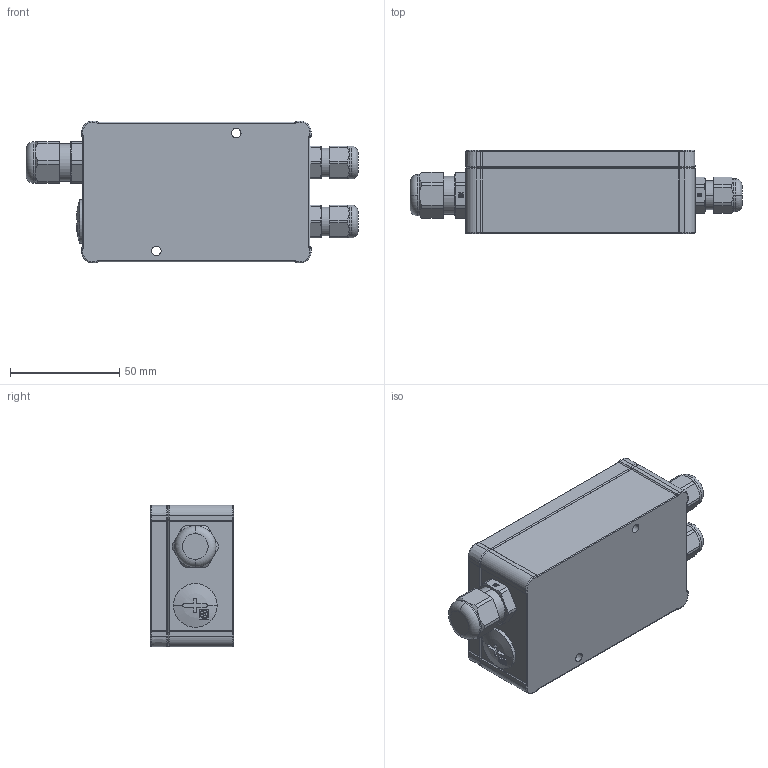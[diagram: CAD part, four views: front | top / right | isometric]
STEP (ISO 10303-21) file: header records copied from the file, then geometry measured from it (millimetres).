
FILE_DESCRIPTION((''),'2;1');
FILE_NAME('0000186042_SW0003','2020-03-02T11:32:07',('11000775'),(''),'CREO PARAMETRIC BY PTC INC, 2019030','CREO PARAMETRIC BY PTC INC, 2019030','');
FILE_SCHEMA(('AUTOMOTIVE_DESIGN { 1 0 10303 214 1 1 1 1 }'));
Length unit declared in the file: millimetre
Products named in the file (1): 0000186042_SW0003
Bounding box: 152 x 38 x 65 mm (x, y, z)
Volume: 263090.9 mm3; surface area: 32020.2 mm2
Topology: 1 solids, 1 shells, 563 faces, 1350 edges, 824 vertices
Faces by surface type: plane 216, cylinder 166, cone 112, torus 66, sphere 3
Entity records: 28501 total; most frequent: CARTESIAN_POINT 5212, DIRECTION 2892, ORIENTED_EDGE 2700, PRESENTATION_STYLE_ASSIGNMENT 1918, STYLED_ITEM 1355, CURVE_STYLE 1354, EDGE_CURVE 1350, AXIS2_PLACEMENT_3D 1111
